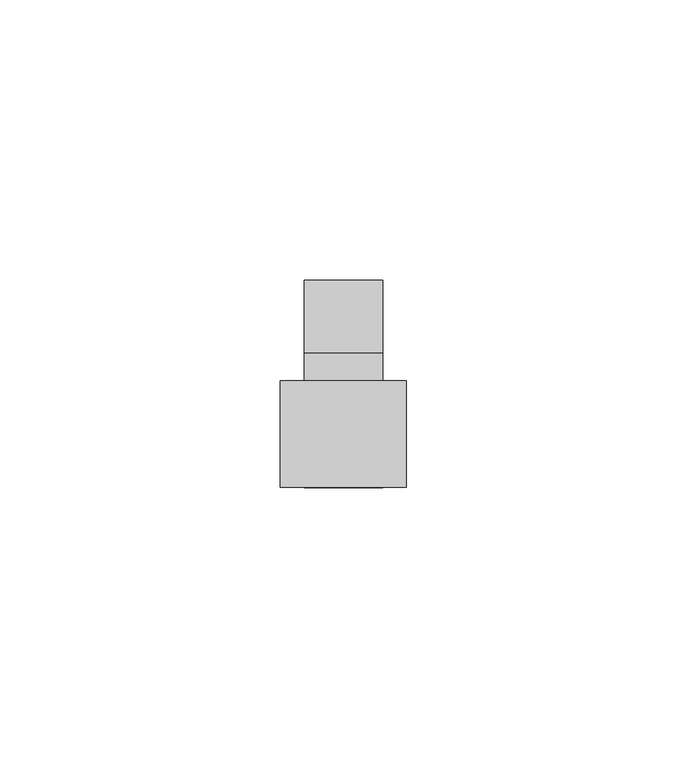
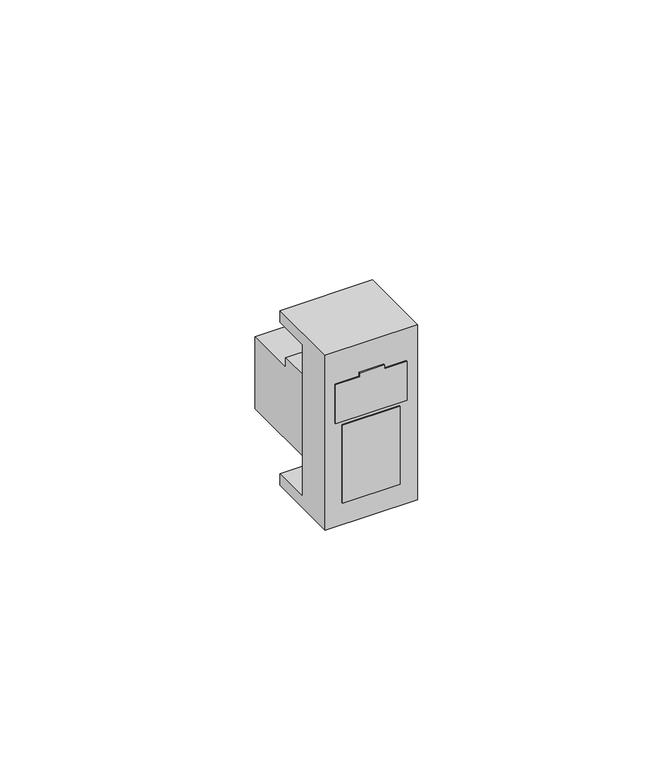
"""IFC4 building model written with IfcOpenShell, lengths in millimetres: proxy geometry."""

from ifc_helpers import new_model, si_unit, frame, origin, place, context, project, spatial, polyline, outline, extrude, faceted_brep, source, transform, mapped, element, save


def electrical_fixtures_4ca22318(model_context):
    return source(origin(), model_context, "Body", "SolidModel", [
        extrude(outline(polyline([(3.9878881, 19.9), (13.9878881, 19.9), (13.9878881, 14.4016824), (14.9878881, 14.4016824), (14.9878881, 8.4016824), (13.9878881, 8.4016824), (13.9878881, 2.5), (3.9878881, 2.5), (3.9878881, 19.9)])), frame((0.0, -7.0, 0.0), z_axis=(0.0, 1.0, 0.0), x_axis=(0.0, 0.0, 1.0)), (0.0, 0.0, 1.0), 1.0),
        extrude(outline(polyline([(18.2, -7.0), (4.2, -7.0), (4.2, -6.0), (18.2, -6.0), (18.2, -7.0)])), frame((0.0, 0.0, -16.95), z_axis=(0.0, 0.0, 1.0), x_axis=(1.0, 0.0, 0.0)), (0.0, 0.0, 1.0), 19.9378881),
        extrude(outline(polyline([(8.3269263, 8.0), (8.3269263, 5.9037214), (16.9, 5.9037214), (16.9, 3.4037214), (29.9, 3.4037214), (29.9, -15.0962786), (6.1, -15.0962786), (6.1, -17.95), (2.5, -17.95), (2.5, 8.0), (8.3269263, 8.0)])), frame((4.2, 0.0, 0.0), z_axis=(1.0, 0.0, 0.0), x_axis=(0.0, 1.0, 0.0)), (0.0, 0.0, 1.0), 14.0),
        faceted_brep([(22.4, 12.0, 22.45), (22.4, 12.0, 19.45), (0.0, 12.0, 19.45), (0.0, 12.0, 22.45), (22.4, 2.5, 19.45), (0.0, 2.5, 19.45), (22.4, -7.0, -22.45), (22.4, -7.0, 22.45), (0.0, -7.0, 22.45), (0.0, -7.0, -22.45), (19.9, -7.0, 13.9878881), (19.9, -7.0, 3.9878881), (2.5, -7.0, 3.9878881), (2.5, -7.0, 13.9878881), (8.4016824, -7.0, 13.9878881), (8.4016824, -7.0, 14.9878881), (14.4016824, -7.0, 14.9878881), (14.4016824, -7.0, 13.9878881), (4.2, -7.0, 2.9878881), (18.2, -7.0, 2.9878881), (18.2, -7.0, -16.95), (4.2, -7.0, -16.95), (22.4, 2.5, -19.45), (0.0, 2.5, -19.45), (22.4, 12.0, -22.45), (22.4, 12.0, -19.45), (0.0, 12.0, -19.45), (0.0, 12.0, -22.45), (19.9, -3.5, 3.9878881), (19.9, -3.5, 13.9878881), (14.4016824, -3.5, 13.9878881), (14.4016824, -3.5, 14.9878881), (8.4016824, -3.5, 14.9878881), (8.4016824, -3.5, 13.9878881), (2.5, -3.5, 13.9878881), (2.5, -3.5, 3.9878881), (18.2, -3.5, 2.9878881), (4.2, -3.5, 2.9878881), (4.2, -3.5, -16.95), (18.2, -3.5, -16.95), (9.1879463, -3.5, -13.8368244), (9.1879463, -3.5, 0.6446082), (11.9879463, -3.5, 0.6446082), (14.0243326, -3.5, -1.3917781), (14.0243326, -3.5, -11.8004382), (11.9879463, -3.5, -13.8368244), (11.293545, -3.5, -1.5961081), (10.493545, -3.5, -1.5961081), (10.493545, -3.5, -11.5961081), (11.293545, -3.5, -11.5961081), (9.1879463, 0.0, 0.6446082), (9.1879463, 0.0, -13.8368244), (11.9879463, 0.0, -13.8368244), (14.0243326, 0.0, -11.8004382), (14.0243326, 0.0, -1.3917781), (11.9879463, 0.0, 0.6446082), (10.493545, 0.0, -1.5961081), (11.293545, 0.0, -1.5961081), (11.293545, 0.0, -11.5961081), (10.493545, 0.0, -11.5961081)], [[[0, 1, 2, 3]], [[2, 1, 4, 5]], [[6, 7, 8, 9], [10, 11, 12, 13, 14, 15, 16, 17], [18, 19, 20, 21]], [[5, 4, 22, 23]], [[7, 6, 24, 25, 22, 4, 1, 0]], [[8, 7, 0, 3]], [[9, 8, 3, 2, 5, 23, 26, 27]], [[24, 6, 9, 27]], [[25, 24, 27, 26]], [[25, 26, 23, 22]], [[28, 29, 30, 31, 32, 33, 34, 35]], [[36, 37, 38, 39], [40, 41, 42, 43, 44, 45]], [[46, 47, 48, 49]], [[29, 28, 11, 10]], [[30, 29, 10, 17]], [[31, 30, 17, 16]], [[32, 31, 16, 15]], [[33, 32, 15, 14]], [[34, 33, 14, 13]], [[35, 34, 13, 12]], [[28, 35, 12, 11]], [[37, 36, 19, 18]], [[38, 37, 18, 21]], [[39, 38, 21, 20]], [[36, 39, 20, 19]], [[50, 51, 52, 53, 54, 55], [56, 57, 58, 59]], [[51, 50, 41, 40]], [[52, 51, 40, 45]], [[53, 52, 45, 44]], [[54, 53, 44, 43]], [[55, 54, 43, 42]], [[50, 55, 42, 41]], [[57, 56, 47, 46]], [[58, 57, 46, 49]], [[59, 58, 49, 48]], [[56, 59, 48, 47]]]),
    ])


if __name__ == "__main__":
    model = new_model("IFC4")
    model_context = context("Model", 3, world=origin())
    ifc_project = project(units=[si_unit("LENGTHUNIT", "METRE", prefix="MILLI")], contexts=[model_context])
    site = spatial("IfcSite", under=ifc_project)
    building = spatial("IfcBuilding", under=site)
    placement = place(None, origin())
    electrical_fixtures_shape = electrical_fixtures_4ca22318(model_context)
    element("IfcBuildingElementProxy", 1, Name="Electrical Fixtures", at=placement, inside=building, context=model_context, shape_type="MappedRepresentation", body=[
        mapped(electrical_fixtures_shape, transform((0.0, 0.0, 0.0), x_axis=(1.0, 0.0, 0.0), y_axis=(0.0, 1.0, 0.0), z_axis=(0.0, 0.0, 1.0))),
    ])
    save(model, "model.ifc")
